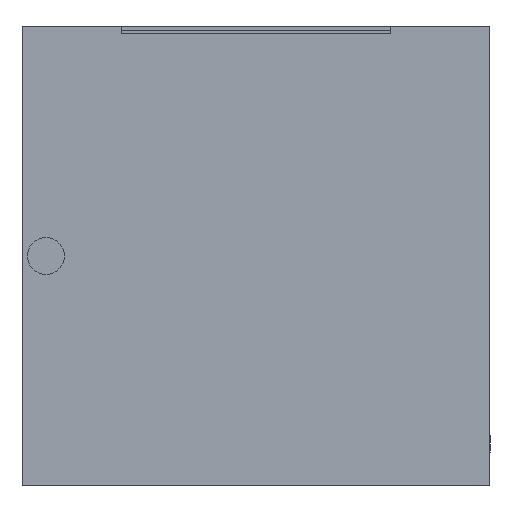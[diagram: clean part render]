
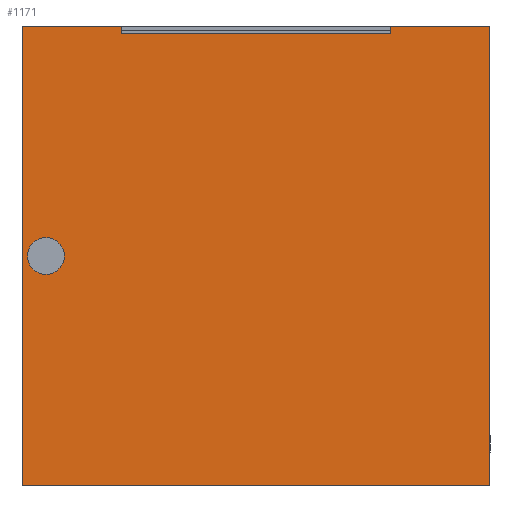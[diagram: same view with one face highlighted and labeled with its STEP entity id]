
A CAD part, left-side view. The second image highlights one B-rep face of the part: STEP entity #1171.
In plain terms, the highlighted planar face has unit normal (-1, 0, 0).
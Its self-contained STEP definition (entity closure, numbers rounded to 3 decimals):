
#91 = CARTESIAN_POINT ( 'NONE',  ( -167.824, 111.478, 55.267 ) ) ;
#102 = VECTOR ( 'NONE', #845, 1000. ) ;
#139 = LINE ( 'NONE', #1136, #102 ) ;
#187 = ORIENTED_EDGE ( 'NONE', *, *, #3212, .T. ) ;
#207 = CARTESIAN_POINT ( 'NONE',  ( -167.824, 51.228, 24.117 ) ) ;
#235 = ORIENTED_EDGE ( 'NONE', *, *, #3318, .T. ) ;
#315 = DIRECTION ( 'NONE',  ( 0., 0., -1. ) ) ;
#347 = AXIS2_PLACEMENT_3D ( 'NONE', #91, #2012, #407 ) ;
#400 = CARTESIAN_POINT ( 'NONE',  ( -167.824, 51.228, 86.417 ) ) ;
#407 = DIRECTION ( 'NONE',  ( 0., -1., 0. ) ) ;
#420 = VERTEX_POINT ( 'NONE', #3341 ) ;
#457 = CARTESIAN_POINT ( 'NONE',  ( -167.824, 64.728, 86.417 ) ) ;
#474 = VERTEX_POINT ( 'NONE', #207 ) ;
#481 = VECTOR ( 'NONE', #2216, 1000. ) ;
#490 = LINE ( 'NONE', #2482, #481 ) ;
#493 = AXIS2_PLACEMENT_3D ( 'NONE', #2272, #3293, #1813 ) ;
#519 = EDGE_CURVE ( 'NONE', #1857, #474, #1260, .T. ) ;
#563 = DIRECTION ( 'NONE',  ( 1., 0., 0. ) ) ;
#589 = VERTEX_POINT ( 'NONE', #1408 ) ;
#622 = CARTESIAN_POINT ( 'NONE',  ( -167.824, 51.228, 24.117 ) ) ;
#762 = FACE_OUTER_BOUND ( 'NONE', #3022, .T. ) ;
#845 = DIRECTION ( 'NONE',  ( 0., 1., 0. ) ) ;
#902 = VERTEX_POINT ( 'NONE', #1253 ) ;
#937 = ORIENTED_EDGE ( 'NONE', *, *, #519, .T. ) ;
#966 = EDGE_LOOP ( 'NONE', ( #235, #1641 ) ) ;
#1048 = VERTEX_POINT ( 'NONE', #1508 ) ;
#1136 = CARTESIAN_POINT ( 'NONE',  ( -167.824, 51.228, 86.417 ) ) ;
#1171 = ADVANCED_FACE ( 'NONE', ( #762, #2016 ), #1563, .T. ) ;
#1179 = EDGE_CURVE ( 'NONE', #1809, #902, #2128, .T. ) ;
#1253 = CARTESIAN_POINT ( 'NONE',  ( -167.824, 64.728, 85.417 ) ) ;
#1260 = LINE ( 'NONE', #1394, #2385 ) ;
#1280 = LINE ( 'NONE', #3290, #1303 ) ;
#1303 = VECTOR ( 'NONE', #1806, 1000. ) ;
#1334 = VERTEX_POINT ( 'NONE', #2930 ) ;
#1349 = EDGE_CURVE ( 'NONE', #1334, #1048, #2959, .T. ) ;
#1394 = CARTESIAN_POINT ( 'NONE',  ( -167.824, 82.978, 24.117 ) ) ;
#1408 = CARTESIAN_POINT ( 'NONE',  ( -167.824, 101.228, 85.417 ) ) ;
#1462 = ORIENTED_EDGE ( 'NONE', *, *, #3442, .T. ) ;
#1508 = CARTESIAN_POINT ( 'NONE',  ( -167.824, 108.978, 55.267 ) ) ;
#1534 = ORIENTED_EDGE ( 'NONE', *, *, #1546, .F. ) ;
#1545 = AXIS2_PLACEMENT_3D ( 'NONE', #2137, #563, #2380 ) ;
#1546 = EDGE_CURVE ( 'NONE', #420, #474, #2641, .T. ) ;
#1563 = PLANE ( 'NONE',  #493 ) ;
#1611 = ORIENTED_EDGE ( 'NONE', *, *, #3074, .T. ) ;
#1641 = ORIENTED_EDGE ( 'NONE', *, *, #1349, .T. ) ;
#1758 = DIRECTION ( 'NONE',  ( 0., 1., 0. ) ) ;
#1806 = DIRECTION ( 'NONE',  ( 0., 0., 1. ) ) ;
#1809 = VERTEX_POINT ( 'NONE', #2402 ) ;
#1813 = DIRECTION ( 'NONE',  ( 0., 0., 1. ) ) ;
#1857 = VERTEX_POINT ( 'NONE', #2676 ) ;
#2012 = DIRECTION ( 'NONE',  ( 1., 0., 0. ) ) ;
#2016 = FACE_BOUND ( 'NONE', #966, .T. ) ;
#2048 = DIRECTION ( 'NONE',  ( 0., 0., -1. ) ) ;
#2128 = LINE ( 'NONE', #457, #3344 ) ;
#2137 = CARTESIAN_POINT ( 'NONE',  ( -167.824, 111.478, 55.267 ) ) ;
#2216 = DIRECTION ( 'NONE',  ( 0., 0., -1. ) ) ;
#2272 = CARTESIAN_POINT ( 'NONE',  ( -167.824, 51.228, 24.117 ) ) ;
#2325 = ORIENTED_EDGE ( 'NONE', *, *, #2700, .T. ) ;
#2380 = DIRECTION ( 'NONE',  ( 0., -1., 0. ) ) ;
#2385 = VECTOR ( 'NONE', #2854, 1000. ) ;
#2402 = CARTESIAN_POINT ( 'NONE',  ( -167.824, 64.728, 86.417 ) ) ;
#2480 = VERTEX_POINT ( 'NONE', #2782 ) ;
#2482 = CARTESIAN_POINT ( 'NONE',  ( -167.824, 114.728, 24.117 ) ) ;
#2580 = VECTOR ( 'NONE', #315, 1000. ) ;
#2641 = LINE ( 'NONE', #622, #2580 ) ;
#2676 = CARTESIAN_POINT ( 'NONE',  ( -167.824, 114.728, 24.117 ) ) ;
#2700 = EDGE_CURVE ( 'NONE', #589, #3148, #1280, .T. ) ;
#2782 = CARTESIAN_POINT ( 'NONE',  ( -167.824, 114.728, 86.417 ) ) ;
#2811 = LINE ( 'NONE', #400, #2845 ) ;
#2845 = VECTOR ( 'NONE', #1758, 1000. ) ;
#2854 = DIRECTION ( 'NONE',  ( 0., -1., 0. ) ) ;
#2866 = CARTESIAN_POINT ( 'NONE',  ( -167.824, 51.228, 85.417 ) ) ;
#2930 = CARTESIAN_POINT ( 'NONE',  ( -167.824, 113.978, 55.267 ) ) ;
#2959 = CIRCLE ( 'NONE', #347, 2.5 ) ;
#3022 = EDGE_LOOP ( 'NONE', ( #3159, #3080, #2325, #187, #1611, #937, #1534, #1462 ) ) ;
#3065 = CARTESIAN_POINT ( 'NONE',  ( -167.824, 101.228, 86.417 ) ) ;
#3074 = EDGE_CURVE ( 'NONE', #2480, #1857, #490, .T. ) ;
#3080 = ORIENTED_EDGE ( 'NONE', *, *, #3287, .T. ) ;
#3105 = LINE ( 'NONE', #2866, #3299 ) ;
#3128 = DIRECTION ( 'NONE',  ( 0., 1., 0. ) ) ;
#3148 = VERTEX_POINT ( 'NONE', #3065 ) ;
#3159 = ORIENTED_EDGE ( 'NONE', *, *, #1179, .T. ) ;
#3212 = EDGE_CURVE ( 'NONE', #3148, #2480, #139, .T. ) ;
#3287 = EDGE_CURVE ( 'NONE', #902, #589, #3105, .T. ) ;
#3290 = CARTESIAN_POINT ( 'NONE',  ( -167.824, 101.228, 86.417 ) ) ;
#3293 = DIRECTION ( 'NONE',  ( -1., 0., 0. ) ) ;
#3299 = VECTOR ( 'NONE', #3128, 1000. ) ;
#3318 = EDGE_CURVE ( 'NONE', #1048, #1334, #3447, .T. ) ;
#3341 = CARTESIAN_POINT ( 'NONE',  ( -167.824, 51.228, 86.417 ) ) ;
#3344 = VECTOR ( 'NONE', #2048, 1000. ) ;
#3442 = EDGE_CURVE ( 'NONE', #420, #1809, #2811, .T. ) ;
#3447 = CIRCLE ( 'NONE', #1545, 2.5 ) ;
